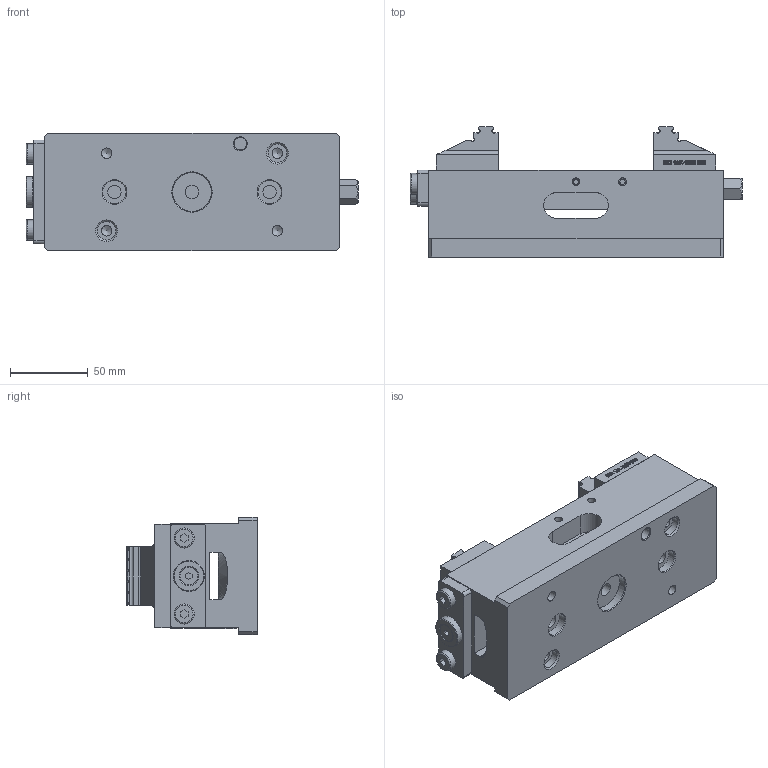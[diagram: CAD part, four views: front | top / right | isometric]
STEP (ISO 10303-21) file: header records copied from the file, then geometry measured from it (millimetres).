
FILE_DESCRIPTION (( 'STEP AP214' ), '1' );
FILE_NAME ('3D-6921528052155.STEP', '2023-12-22T07:30:33', ( '' ), ( '' ), 'SwSTEP 2.0', 'SolidWorks 2021', '' );
FILE_SCHEMA (( 'AUTOMOTIVE_DESIGN' ));
Length unit declared in the file: millimetre
Products named in the file (4): 3D-6921528052155; 3D-6921524060000; 3D-692152805x155; 3D-6921524050000
Assembly tree (3 placements, depth 2):
  3D-6921528052155
    3D-692152805x155
    3D-6921524050000
    3D-6921524060000
Bounding box: 214 x 84 x 76 mm (x, y, z)
Volume: 767408.4 mm3; surface area: 102873.6 mm2
Topology: 3 solids, 3 shells, 1369 faces, 3652 edges, 2425 vertices
Faces by surface type: plane 736, bspline 517, cylinder 92, cone 22, torus 2
Full cylindrical faces by diameter (mm): 4.2 x4, 5 x2, 6.8 x4, 8 x1, 8.5 x3, 11.6 x1, 12 x2, 13 x2, 15 x2, 17.5 x1, 20 x1, 25 x1
Entity records: 68568 total; most frequent: CARTESIAN_POINT 38156, ORIENTED_EDGE 7170, DIRECTION 4266, EDGE_CURVE 3585, VERTEX_POINT 2406, VECTOR 2338, LINE 2338, EDGE_LOOP 1565
